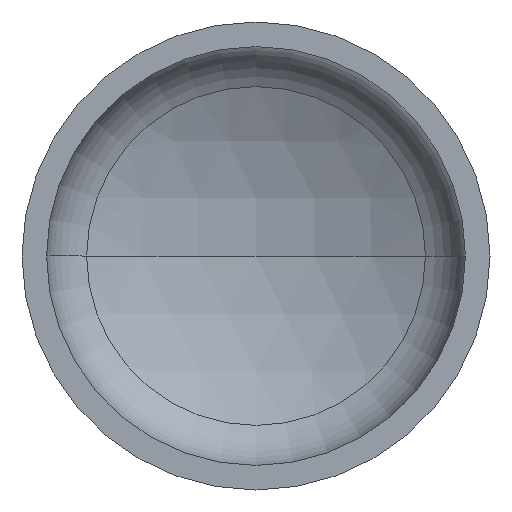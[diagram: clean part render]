
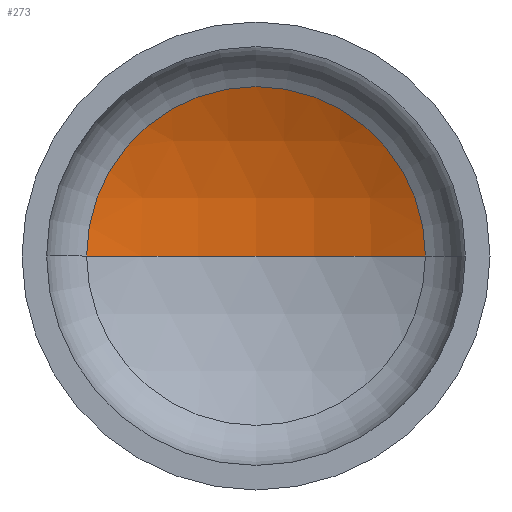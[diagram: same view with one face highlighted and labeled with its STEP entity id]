
A CAD part, front view. The second image highlights one B-rep face of the part: STEP entity #273.
In plain terms, the highlighted spherical face has radius 640 mm.
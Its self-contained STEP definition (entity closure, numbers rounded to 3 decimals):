
#1 = CARTESIAN_POINT ( 'NONE',  ( -289.553, 241.475, 0. ) ) ;
#2 = AXIS2_PLACEMENT_3D ( 'NONE', #281, #141, #142 ) ;
#13 = SPHERICAL_SURFACE ( 'NONE', #35, 640. ) ;
#14 = AXIS2_PLACEMENT_3D ( 'NONE', #207, #213, #346 ) ;
#20 = AXIS2_PLACEMENT_3D ( 'NONE', #153, #377, #233 ) ;
#21 = EDGE_LOOP ( 'NONE', ( #92, #112, #83 ) ) ;
#31 = VERTEX_POINT ( 'NONE', #368 ) ;
#35 = AXIS2_PLACEMENT_3D ( 'NONE', #160, #192, #193 ) ;
#83 = ORIENTED_EDGE ( 'NONE', *, *, #336, .T. ) ;
#92 = ORIENTED_EDGE ( 'NONE', *, *, #378, .F. ) ;
#112 = ORIENTED_EDGE ( 'NONE', *, *, #343, .T. ) ;
#115 = VERTEX_POINT ( 'NONE', #295 ) ;
#141 = DIRECTION ( 'NONE',  ( 0., 0., 1. ) ) ;
#142 = DIRECTION ( 'NONE',  ( 1., 0., 0. ) ) ;
#148 = CIRCLE ( 'NONE', #20, 289.553 ) ;
#153 = CARTESIAN_POINT ( 'NONE',  ( 0., 241.475, 0. ) ) ;
#160 = CARTESIAN_POINT ( 'NONE',  ( 0., -329.278, 0. ) ) ;
#192 = DIRECTION ( 'NONE',  ( 0., 0., -1. ) ) ;
#193 = DIRECTION ( 'NONE',  ( -1., 0., 0. ) ) ;
#204 = VERTEX_POINT ( 'NONE', #1 ) ;
#207 = CARTESIAN_POINT ( 'NONE',  ( 0., -329.278, 0. ) ) ;
#213 = DIRECTION ( 'NONE',  ( 0., 0., -1. ) ) ;
#215 = CIRCLE ( 'NONE', #14, 640. ) ;
#233 = DIRECTION ( 'NONE',  ( 1., 0., 0. ) ) ;
#236 = FACE_OUTER_BOUND ( 'NONE', #21, .T. ) ;
#273 = ADVANCED_FACE ( 'NONE', ( #236 ), #13, .F. ) ;
#281 = CARTESIAN_POINT ( 'NONE',  ( 0., -329.278, 0. ) ) ;
#295 = CARTESIAN_POINT ( 'NONE',  ( 289.553, 241.475, 0. ) ) ;
#336 = EDGE_CURVE ( 'NONE', #115, #204, #148, .T. ) ;
#343 = EDGE_CURVE ( 'NONE', #31, #115, #215, .T. ) ;
#346 = DIRECTION ( 'NONE',  ( -1., 0., 0. ) ) ;
#368 = CARTESIAN_POINT ( 'NONE',  ( 0., 310.722, 0. ) ) ;
#377 = DIRECTION ( 'NONE',  ( 0., -1., 0. ) ) ;
#378 = EDGE_CURVE ( 'NONE', #31, #204, #382, .T. ) ;
#382 = CIRCLE ( 'NONE', #2, 640. ) ;
